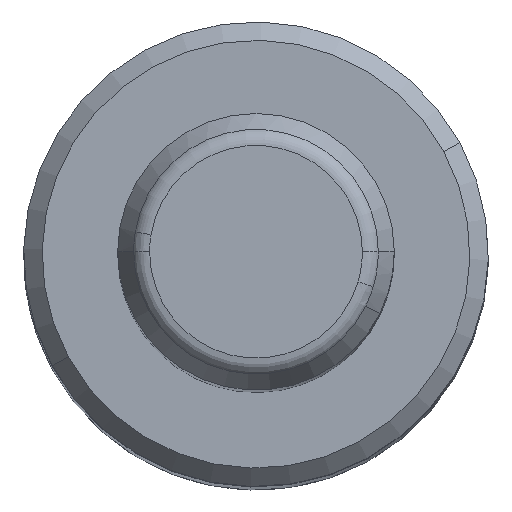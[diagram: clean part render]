
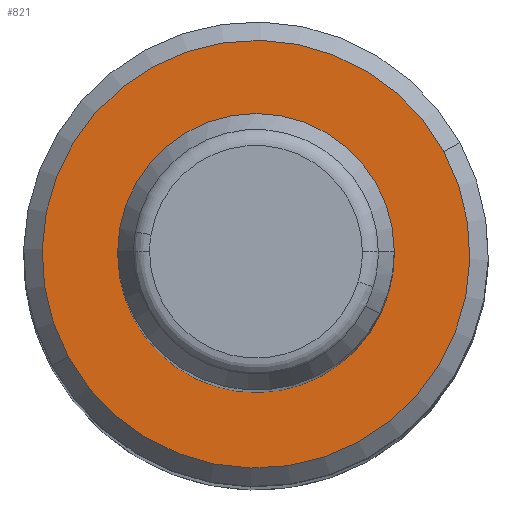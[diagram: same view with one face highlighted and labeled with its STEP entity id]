
A CAD part, top view. The second image highlights one B-rep face of the part: STEP entity #821.
In plain terms, the highlighted planar face has unit normal (0, 0, 1).
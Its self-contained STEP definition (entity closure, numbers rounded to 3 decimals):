
#769=CARTESIAN_POINT('Axis2P3D Location',(0.,0.,109.)) ;
#773=CARTESIAN_POINT('Vertex',(10.18,5.561,109.)) ;
#775=CARTESIAN_POINT('Vertex',(-10.18,-5.561,109.)) ;
#800=CARTESIAN_POINT('Axis2P3D Location',(0.,0.,109.)) ;
#812=CARTESIAN_POINT('Axis2P3D Location',(11.6,0.,109.)) ;
#770=DIRECTION('Axis2P3D Direction',(0.,0.,-1.)) ;
#801=DIRECTION('Axis2P3D Direction',(0.,0.,-1.)) ;
#813=DIRECTION('Axis2P3D Direction',(0.,0.,1.)) ;
#814=DIRECTION('Axis2P3D XDirection',(1.,0.,0.)) ;
#771=AXIS2_PLACEMENT_3D('Circle Axis2P3D',#769,#770,$) ;
#802=AXIS2_PLACEMENT_3D('Circle Axis2P3D',#800,#801,$) ;
#815=AXIS2_PLACEMENT_3D('Plane Axis2P3D',#812,#813,#814) ;
#818=ORIENTED_EDGE('',*,*,#777,.T.) ;
#819=ORIENTED_EDGE('',*,*,#804,.T.) ;
#821=ADVANCED_FACE('',(#820),#816,.T.) ;
#772=CIRCLE('generated circle',#771,11.6) ;
#803=CIRCLE('generated circle',#802,11.6) ;
#777=EDGE_CURVE('',#774,#776,#772,.F.) ;
#804=EDGE_CURVE('',#776,#774,#803,.F.) ;
#817=EDGE_LOOP('',(#818,#819)) ;
#820=FACE_OUTER_BOUND('',#817,.T.) ;
#816=PLANE('Plane',#815) ;
#774=VERTEX_POINT('',#773) ;
#776=VERTEX_POINT('',#775) ;
